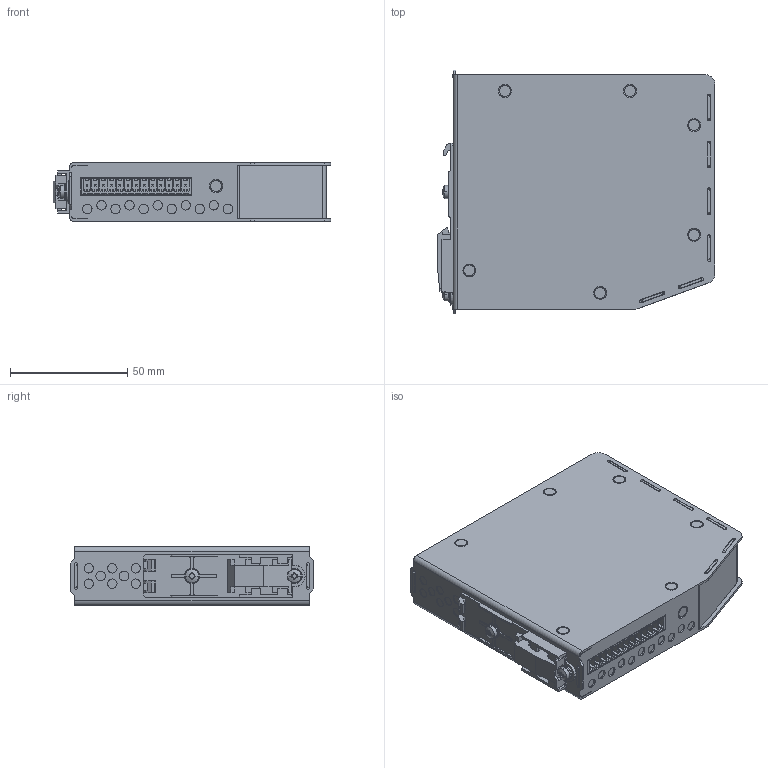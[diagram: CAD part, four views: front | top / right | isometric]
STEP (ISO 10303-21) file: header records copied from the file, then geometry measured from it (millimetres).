
FILE_DESCRIPTION((''),'2;1');
FILE_NAME('1_BM40_STEP_SW0001','2018-01-12T',('mellertr'),(''),'CREO PARAMETRIC BY PTC INC, 2017170','CREO PARAMETRIC BY PTC INC, 2017170','');
FILE_SCHEMA(('CONFIG_CONTROL_DESIGN'));
Products named in the file (1): 1_BM40_STEP_SW0001
Bounding box: 118.6 x 104 x 25 mm (x, y, z)
Volume: 268683.9 mm3; surface area: 39241.8 mm2
Topology: 1 solids, 2 shells, 2195 faces, 5773 edges, 3736 vertices
Faces by surface type: bspline 2195
Entity records: 87417 total; most frequent: CARTESIAN_POINT 25577, ORIENTED_EDGE 11546, DIRECTION 6567, EDGE_CURVE 5773, VECTOR 4611, LINE 4611, VERTEX_POINT 3736, EDGE_LOOP 2383
